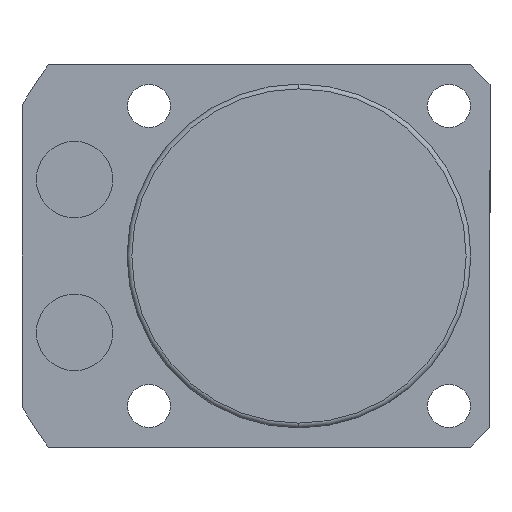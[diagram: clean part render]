
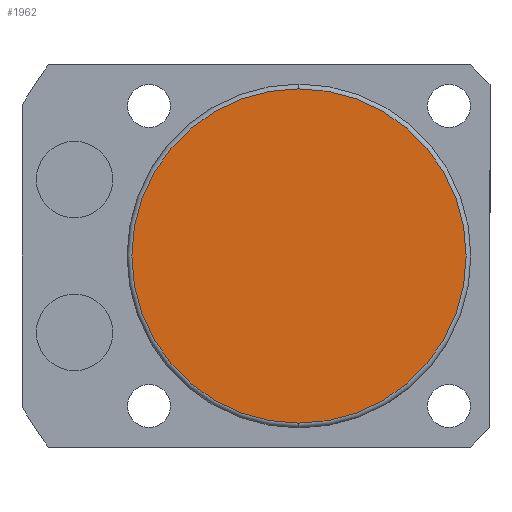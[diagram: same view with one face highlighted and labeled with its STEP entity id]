
A CAD part, front view. The second image highlights one B-rep face of the part: STEP entity #1962.
In plain terms, the highlighted planar face has unit normal (0, -1, 0).
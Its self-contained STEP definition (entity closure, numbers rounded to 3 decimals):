
#5 = DIRECTION ( 'NONE',  ( 0., 0., -1. ) ) ;
#32 = CARTESIAN_POINT ( 'NONE',  ( 0., -95.5, 0. ) ) ;
#156 = CIRCLE ( 'NONE', #2402, 17.5 ) ;
#211 = CARTESIAN_POINT ( 'NONE',  ( 0., -95.5, 0. ) ) ;
#242 = CIRCLE ( 'NONE', #1111, 17.5 ) ;
#286 = PLANE ( 'NONE',  #1681 ) ;
#296 = CARTESIAN_POINT ( 'NONE',  ( 0., -95.5, 0. ) ) ;
#485 = FACE_OUTER_BOUND ( 'NONE', #743, .T. ) ;
#623 = VERTEX_POINT ( 'NONE', #1719 ) ;
#743 = EDGE_LOOP ( 'NONE', ( #1995, #845 ) ) ;
#845 = ORIENTED_EDGE ( 'NONE', *, *, #1509, .T. ) ;
#851 = DIRECTION ( 'NONE',  ( 0., 0., -1. ) ) ;
#1045 = EDGE_CURVE ( 'NONE', #1622, #623, #242, .T. ) ;
#1111 = AXIS2_PLACEMENT_3D ( 'NONE', #211, #2113, #2300 ) ;
#1509 = EDGE_CURVE ( 'NONE', #623, #1622, #156, .T. ) ;
#1622 = VERTEX_POINT ( 'NONE', #1933 ) ;
#1681 = AXIS2_PLACEMENT_3D ( 'NONE', #296, #2233, #851 ) ;
#1719 = CARTESIAN_POINT ( 'NONE',  ( 0., -95.5, 17.5 ) ) ;
#1933 = CARTESIAN_POINT ( 'NONE',  ( 0., -95.5, -17.5 ) ) ;
#1962 = ADVANCED_FACE ( 'NONE', ( #485 ), #286, .T. ) ;
#1995 = ORIENTED_EDGE ( 'NONE', *, *, #1045, .T. ) ;
#2084 = DIRECTION ( 'NONE',  ( 0., -1., 0. ) ) ;
#2113 = DIRECTION ( 'NONE',  ( 0., -1., 0. ) ) ;
#2233 = DIRECTION ( 'NONE',  ( 0., -1., 0. ) ) ;
#2300 = DIRECTION ( 'NONE',  ( 0., 0., -1. ) ) ;
#2402 = AXIS2_PLACEMENT_3D ( 'NONE', #32, #2084, #5 ) ;
